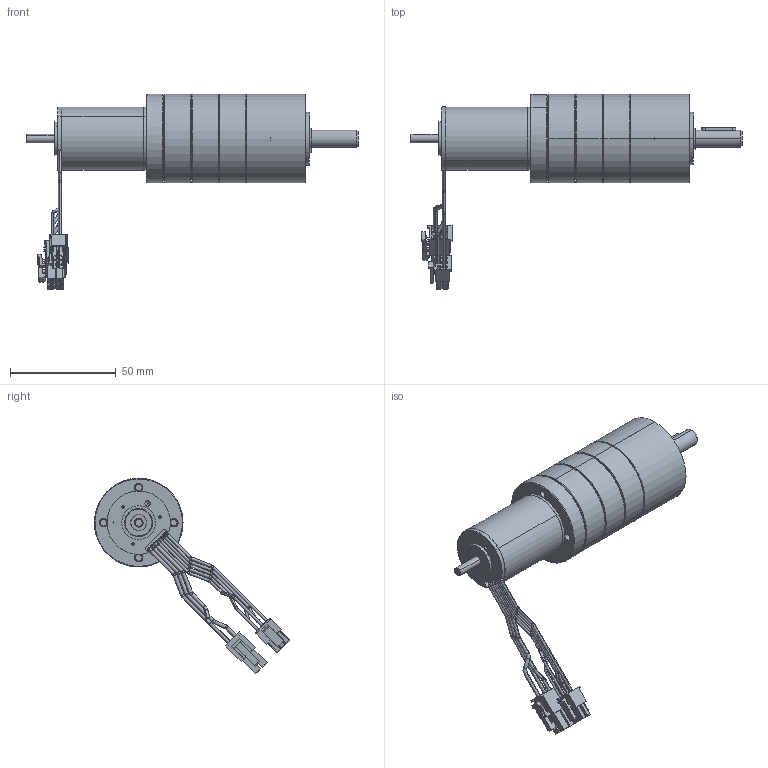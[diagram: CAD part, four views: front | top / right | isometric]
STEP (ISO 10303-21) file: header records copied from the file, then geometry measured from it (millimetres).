
FILE_DESCRIPTION (( 'STEP AP214' ), '1' );
FILE_NAME ('ECi30_PM42-3etages.STEP', '2019-11-08T13:49:24', ( '' ), ( '' ), 'SwSTEP 2.0', 'SolidWorks 2018', '' );
FILE_SCHEMA (( 'AUTOMOTIVE_DESIGN' ));
Length unit declared in the file: millimetre
Products named in the file (17): 8001288_ANLAUFSCHEIBE_1ST_12_2; MOTORFLANSCH_1241491_1_2; VBZ_K7841_ABTRIEB_AF0_14_2; P8209_8007589_ZAHNKRANZ_Z46_13_2; 8001316_ABTRIEB_LK4_KPL_13_2; 8001305_LAGERBOLZEN_14_2; D625-608-2RS_13_2; 8007606_DICHTRING_13_2; D471_8X0_8_14_2; D912_M3X8_9_2; 8007595_LAGERFLANSCH_13_2; 3X3X16_D6885A_14_2; DIN998_PS_8X14X1_14_2; ECi30_PM42-3etages; 539481_EC-i30_45W_HighTorque; SCHRAUBE_1241978_23_2; MOTORRITZEL_Z17_1239849_1_2
Assembly tree (31 placements, depth 3):
  ECi30_PM42-3etages
    8007595_LAGERFLANSCH_13_2
    D625-608-2RS_13_2  x2
    DIN998_PS_8X14X1_14_2  x2
    8001316_ABTRIEB_LK4_KPL_13_2
      VBZ_K7841_ABTRIEB_AF0_14_2
      8001305_LAGERBOLZEN_14_2  x3
    D471_8X0_8_14_2
    3X3X16_D6885A_14_2
    8007606_DICHTRING_13_2  x4
    P8209_8007589_ZAHNKRANZ_Z46_13_2  x3
    MOTORFLANSCH_1241491_1_2
    8001288_ANLAUFSCHEIBE_1ST_12_2
    MOTORRITZEL_Z17_1239849_1_2
    SCHRAUBE_1241978_23_2  x4
    D912_M3X8_9_2  x4
    539481_EC-i30_45W_HighTorque
Bounding box: 157.3 x 92.52 x 92.56 mm (x, y, z)
Volume: 34961.5 mm3; surface area: 70105.9 mm2
Topology: 22 solids, 57 shells, 1930 faces, 5186 edges, 3354 vertices
Faces by surface type: plane 848, cylinder 791, cone 149, bspline 82, torus 60
Entity records: 55802 total; most frequent: CARTESIAN_POINT 10254, DIRECTION 7020, ORIENTED_EDGE 6720, EDGE_CURVE 3423, AXIS2_PLACEMENT_3D 2482, VERTEX_POINT 2219, VECTOR 2056, LINE 2056
